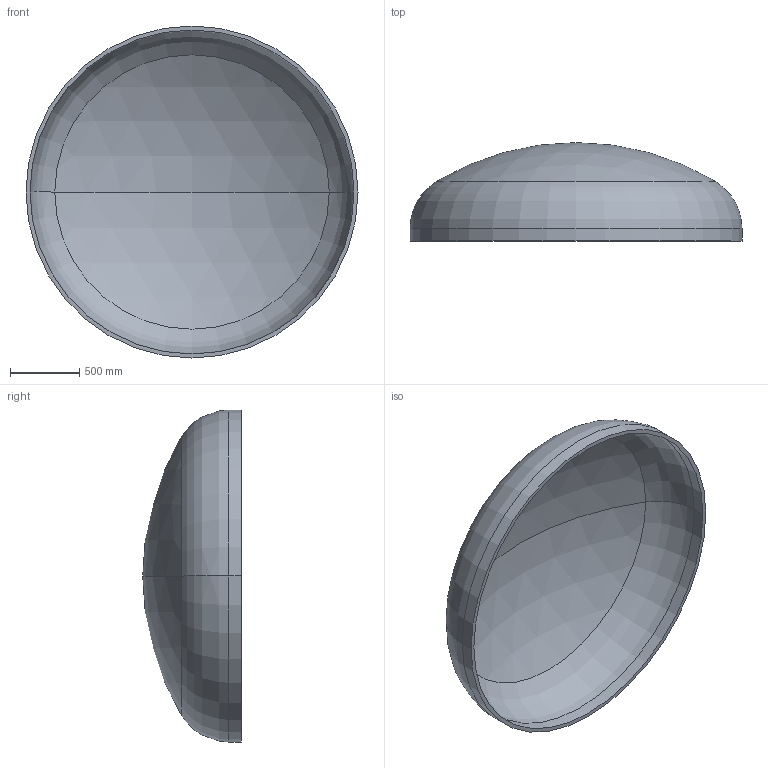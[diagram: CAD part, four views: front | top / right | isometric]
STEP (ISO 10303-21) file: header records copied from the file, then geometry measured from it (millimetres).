
FILE_DESCRIPTION (( 'STEP AP203' ), '1' );
FILE_NAME ('DIN 28013 Korbbogenform_-_Boden DIN 28013 - 2400 x 90 - I - s=29.step', '2016-07-01T15:14:50', ( '' ), ( '' ), 'SwSTEP 2.0', 'SolidWorks 2013', '' );
FILE_SCHEMA (( 'CONFIG_CONTROL_DESIGN' ));
Length unit declared in the file: millimetre
Products named in the file (1): DIN 28013 Korbbogenform_-_Boden DIN 28013 - 2400 x 90 - I - s=29
Bounding box: 2400 x 712.01 x 2400 mm (x, y, z)
Volume: 198299746.6 mm3; surface area: 13893613.9 mm2
Topology: 1 solids, 1 shells, 13 faces, 24 edges, 14 vertices
Faces by surface type: torus 4, cylinder 4, sphere 4, plane 1
Entity records: 407 total; most frequent: DIRECTION 72, CARTESIAN_POINT 52, ORIENTED_EDGE 48, AXIS2_PLACEMENT_3D 34, EDGE_CURVE 24, CIRCLE 20, VERTEX_POINT 14, EDGE_LOOP 14
